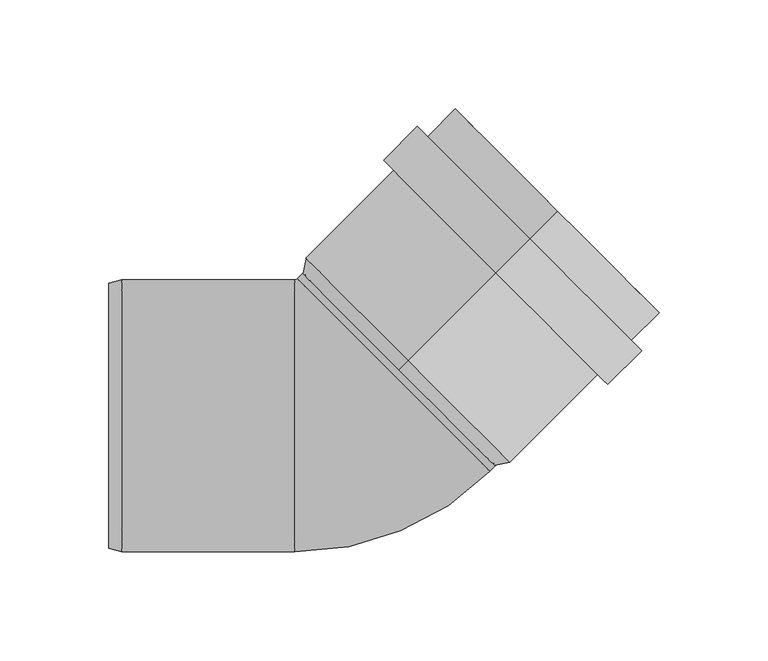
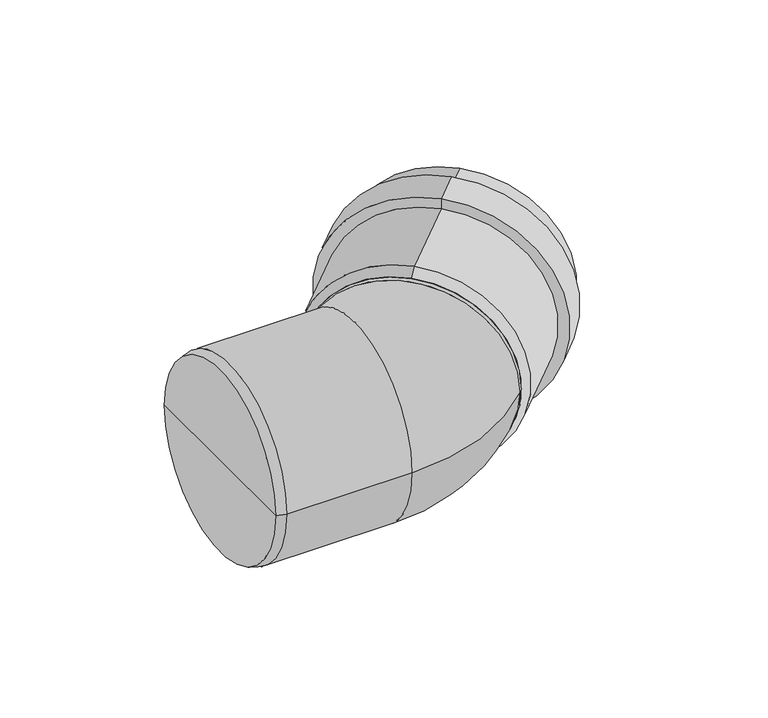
"""IFC4 building model written with IfcOpenShell, lengths in millimetres: pipe fitting geometry, OSMA_KG2000_PPKGB : Koleno 45°."""

from ifc_helpers import new_model, si_unit, point, frame, origin, place, context, project, spatial, polyline, circle_curve, ellipse_curve, trimmed, source, transform, mapped, element, save
from ifc_brep_helpers import plane_surface, cylinder_surface, revolved_surface, advanced_brep


def pipe_fitting_dc05e35d(model_context):
    return source(origin(), model_context, "Body", "AdvancedBrep", [
        advanced_brep(
        [(25.4558441, 25.4558441, 62.5), (25.4558441, 25.4558441, -62.5), (94.0452019, 94.0452019, -62.5), (94.0452019, 94.0452019, 62.5), (65.7609307, 65.7609307, 66.4), (65.7609307, 65.7609307, -66.4), (25.4558441, 25.4558441, -66.4), (25.4558441, 25.4558441, 66.4), (65.7609307, 65.7609307, 73.0), (65.7609307, 65.7609307, -73.0), (81.3172798, 81.3172798, 73.0), (81.3172798, 81.3172798, -73.0), (81.3172798, 81.3172798, 66.4), (81.3172798, 81.3172798, -66.4), (94.0452019, 94.0452019, 66.4), (94.0452019, 94.0452019, -66.4), (21.2132034, 21.2132034, 58.6), (21.2132034, 21.2132034, -58.6), (21.2132034, 21.2132034, 62.5), (21.2132034, 21.2132034, -62.5)],
        [
            (0, 1, circle_curve(frame((25.4558441, 25.4558441, 0.0), z_axis=(-0.7071067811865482, -0.7071067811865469, 0.0), x_axis=(0.0, 0.0, -1.0)), 62.5)),
            (1, 2),
            (2, 3, circle_curve(frame((94.0452019, 94.0452019, 0.0), z_axis=(0.7071067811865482, 0.7071067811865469, 0.0), x_axis=(0.0, 0.0, -1.0)), 62.5)),
            (3, 0),
            (1, 0, circle_curve(frame((25.4558441, 25.4558441, 0.0), z_axis=(-0.7071067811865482, -0.7071067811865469, 0.0), x_axis=(0.0, 0.0, -1.0)), 62.5)),
            (3, 2, circle_curve(frame((94.0452019, 94.0452019, 0.0), z_axis=(0.7071067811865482, 0.7071067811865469, 0.0), x_axis=(0.0, 0.0, -1.0)), 62.5)),
            (4, 5, circle_curve(frame((65.7609307, 65.7609307, 0.0), z_axis=(-0.7071067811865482, -0.7071067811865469, 0.0), x_axis=(0.0, 0.0, -1.0)), 66.4)),
            (5, 6),
            (6, 7, circle_curve(frame((25.4558441, 25.4558441, 0.0), z_axis=(0.7071067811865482, 0.7071067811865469, 0.0), x_axis=(0.0, 0.0, -1.0)), 66.4)),
            (7, 4),
            (5, 4, circle_curve(frame((65.7609307, 65.7609307, 0.0), z_axis=(-0.7071067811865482, -0.7071067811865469, 0.0), x_axis=(0.0, 0.0, -1.0)), 66.4)),
            (7, 6, circle_curve(frame((25.4558441, 25.4558441, 0.0), z_axis=(0.7071067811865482, 0.7071067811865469, 0.0), x_axis=(0.0, 0.0, -1.0)), 66.4)),
            (8, 9, circle_curve(frame((65.7609307, 65.7609307, 0.0), z_axis=(-0.7071067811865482, -0.7071067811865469, 0.0), x_axis=(0.0, 0.0, -1.0)), 73.0)),
            (9, 5),
            (4, 8),
            (9, 8, circle_curve(frame((65.7609307, 65.7609307, 0.0), z_axis=(-0.7071067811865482, -0.7071067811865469, 0.0), x_axis=(0.0, 0.0, -1.0)), 73.0)),
            (10, 11, circle_curve(frame((81.3172798, 81.3172798, 0.0), z_axis=(-0.7071067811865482, -0.7071067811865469, 0.0), x_axis=(0.0, 0.0, -1.0)), 73.0)),
            (11, 9),
            (8, 10),
            (11, 10, circle_curve(frame((81.3172798, 81.3172798, 0.0), z_axis=(-0.7071067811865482, -0.7071067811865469, 0.0), x_axis=(0.0, 0.0, -1.0)), 73.0)),
            (12, 13, circle_curve(frame((81.3172798, 81.3172798, 0.0), z_axis=(-0.7071067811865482, -0.7071067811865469, 0.0), x_axis=(0.0, 0.0, -1.0)), 66.4)),
            (13, 11),
            (10, 12),
            (13, 12, circle_curve(frame((81.3172798, 81.3172798, 0.0), z_axis=(-0.7071067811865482, -0.7071067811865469, 0.0), x_axis=(0.0, 0.0, -1.0)), 66.4)),
            (14, 15, circle_curve(frame((94.0452019, 94.0452019, 0.0), z_axis=(-0.7071067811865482, -0.7071067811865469, 0.0), x_axis=(0.0, 0.0, -1.0)), 66.4)),
            (15, 13),
            (12, 14),
            (15, 14, circle_curve(frame((94.0452019, 94.0452019, 0.0), z_axis=(-0.7071067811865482, -0.7071067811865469, 0.0), x_axis=(0.0, 0.0, -1.0)), 66.4)),
            (2, 15),
            (14, 3),
            (16, 17, circle_curve(frame((21.2132034, 21.2132034, 0.0), z_axis=(-0.7071067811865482, -0.7071067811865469, 0.0), x_axis=(0.0, 0.0, -1.0)), 58.6)),
            (17, 1),
            (0, 16),
            (17, 16, circle_curve(frame((21.2132034, 21.2132034, 0.0), z_axis=(-0.7071067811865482, -0.7071067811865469, 0.0), x_axis=(0.0, 0.0, -1.0)), 58.6)),
            (18, 19, circle_curve(frame((21.2132034, 21.2132034, 0.0), z_axis=(-0.7071067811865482, -0.7071067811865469, 0.0), x_axis=(0.0, 0.0, -1.0)), 62.5)),
            (19, 17),
            (16, 18),
            (19, 18, circle_curve(frame((21.2132034, 21.2132034, 0.0), z_axis=(-0.7071067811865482, -0.7071067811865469, 0.0), x_axis=(0.0, 0.0, -1.0)), 62.5)),
            (6, 19),
            (18, 7),
        ],
        [
            revolved_surface(polyline([(94.04520189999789, 94.04520190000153, -62.5), (25.45584409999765, 25.455844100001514, -62.5)]), (1981.6485249, 1981.6485249, 0.0), (0.7071067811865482, 0.7071067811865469, 0.0)),
            cylinder_surface(frame((1981.6485249, 1981.6485249, 0.0), z_axis=(0.7071067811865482, 0.7071067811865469, 0.0), x_axis=(0.0, 0.0, -1.0)), 66.4),
            plane_surface(frame((65.7609307, 65.7609307, 0.0), z_axis=(-0.7071067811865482, -0.7071067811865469, 0.0), x_axis=(0.0, 0.0, -1.0))),
            cylinder_surface(frame((1981.6485249, 1981.6485249, 0.0), z_axis=(0.7071067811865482, 0.7071067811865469, 0.0), x_axis=(0.0, 0.0, -1.0)), 73.0),
            plane_surface(frame((81.3172798, 81.3172798, 0.0), z_axis=(0.7071067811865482, 0.7071067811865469, 0.0), x_axis=(0.0, 0.0, -1.0))),
            plane_surface(frame((94.0452019, 94.0452019, 0.0), z_axis=(0.7071067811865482, 0.7071067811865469, 0.0), x_axis=(0.0, 0.0, -1.0))),
            revolved_surface(polyline([(25.4558441, 25.4558441, -62.5), (21.2132034, 21.2132034, -58.6)]), (1981.6485249, 1981.6485249, 0.0), (0.7071067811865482, 0.7071067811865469, 0.0)),
            plane_surface(frame((21.2132034, 21.2132034, 0.0), z_axis=(-0.7071067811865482, -0.7071067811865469, 0.0), x_axis=(0.0, 0.0, -1.0))),
            revolved_surface(polyline([(21.2132034, 21.2132034, -62.5), (25.4558441, 25.4558441, -66.4)]), (1981.6485249, 1981.6485249, 0.0), (0.7071067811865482, 0.7071067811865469, 0.0)),
        ],
        [
            (0, [[1, 2, 3, 4]]),
            (0, [[5, -4, 6, -2]]),
            (1, [[7, 8, 9, 10]]),
            (1, [[11, -10, 12, -8]]),
            (2, [[13, 14, -7, 15]]),
            (2, [[16, -15, -11, -14]]),
            (3, [[17, 18, -13, 19]]),
            (3, [[20, -19, -16, -18]]),
            (4, [[21, 22, -17, 23]]),
            (4, [[24, -23, -20, -22]]),
            (1, [[25, 26, -21, 27]]),
            (1, [[28, -27, -24, -26]]),
            (5, [[-3, 29, -25, 30]]),
            (5, [[-6, -30, -28, -29]]),
            (6, [[31, 32, -1, 33]]),
            (6, [[34, -33, -5, -32]]),
            (7, [[35, 36, -31, 37]]),
            (7, [[38, -37, -34, -36]]),
            (8, [[-9, 39, -35, 40]]),
            (8, [[-12, -40, -38, -39]]),
        ],
    ),
        advanced_brep(
        [(-25.4490078, 62.9393398, 0.0), (-26.509668, 62.5, 0.0), (-26.509668, -62.5, 0.0), (62.9393398, -25.4490078, 0.0), (18.745166, 18.745166, 62.5), (18.745166, 18.745166, -62.5), (-112.0, 0.0, 0.0), (-112.0, 60.8923048, 0.0), (-112.0, -60.8923048, 0.0), (-106.0, 62.5, 0.0), (-106.0, -62.5, 0.0), (69.6500179, -18.7383297, 0.0), (-18.7383297, 69.6500179, 0.0)],
        [
            (0, 1, circle_curve(frame((-26.509668, 64.0, 0.0), z_axis=(0.0, 0.0, -1.0), x_axis=(0.0, -1.0, 0.0)), 1.5)),
            (1, 2, circle_curve(frame((-26.509668, 0.0, 0.0), z_axis=(1.0, 0.0, 0.0), x_axis=(0.0, 1.0, 0.0)), 62.5)),
            (2, 3, circle_curve(frame((-26.509668, 64.0, 0.0), z_axis=(0.0, 0.0, 1.0), x_axis=(0.0, -1.0, 0.0)), 126.5)),
            (3, 4, circle_curve(frame((18.745166, 18.745166, 0.0), z_axis=(-0.7071067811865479, -0.7071067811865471, 0.0), x_axis=(-0.7071067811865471, 0.7071067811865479, 0.0)), 62.5)),
            (4, 0, circle_curve(frame((18.745166, 18.745166, 0.0), z_axis=(-0.7071067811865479, -0.7071067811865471, 0.0), x_axis=(-0.7071067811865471, 0.7071067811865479, 0.0)), 62.5)),
            (0, 5, circle_curve(frame((18.745166, 18.745166, 0.0), z_axis=(-0.7071067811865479, -0.7071067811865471, 0.0), x_axis=(-0.7071067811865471, 0.7071067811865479, 0.0)), 62.5)),
            (5, 3, circle_curve(frame((18.745166, 18.745166, 0.0), z_axis=(-0.7071067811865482, -0.7071067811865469, 0.0), x_axis=(-0.7071067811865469, 0.7071067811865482, 0.0)), 62.5)),
            (2, 1, circle_curve(frame((-26.509668, 0.0, 0.0), z_axis=(1.0, 0.0, 0.0), x_axis=(0.0, 1.0, 0.0)), 62.5)),
            (6, 7),
            (7, 8, circle_curve(frame((-112.0, 0.0, 0.0), z_axis=(-1.0, 0.0, 0.0), x_axis=(0.0, 1.0, 0.0)), 60.8923048)),
            (8, 6),
            (8, 7, circle_curve(frame((-112.0, 0.0, 0.0), z_axis=(-1.0, 0.0, 0.0), x_axis=(0.0, 1.0, 0.0)), 60.8923048)),
            (7, 9),
            (9, 10, circle_curve(frame((-106.0, 0.0, 0.0), z_axis=(-1.0, 0.0, 0.0), x_axis=(0.0, 1.0, 0.0)), 62.5)),
            (10, 8),
            (10, 9, circle_curve(frame((-106.0, 0.0, 0.0), z_axis=(-1.0, 0.0, 0.0), x_axis=(0.0, 1.0, 0.0)), 62.5)),
            (9, 1),
            (2, 10),
            (11, 12, circle_curve(frame((25.4558441, 25.4558441, 0.0), z_axis=(0.7071067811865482, 0.7071067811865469, 0.0), x_axis=(-0.7071067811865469, 0.7071067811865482, 0.0)), 62.5)),
            (12, 11, circle_curve(frame((25.4558441, 25.4558441, 0.0), z_axis=(0.7071067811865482, 0.7071067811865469, 0.0), x_axis=(-0.7071067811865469, 0.7071067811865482, 0.0)), 62.5)),
            (12, 0),
            (3, 11),
        ],
        [
            revolved_surface(trimmed(ellipse_curve(frame((-26.509668, 0.0, 0.0), z_axis=(-1.0, 0.0, 0.0), x_axis=(0.0, 1.0, 0.0)), 62.5, 62.5), [point((-26.509668, -62.5, 0.0))], [point((-26.509668, 62.5, 0.0))], True, "CARTESIAN"), (-26.509668, 64.0, 0.0), (0.0, 0.0, 1.0)),
            revolved_surface(trimmed(ellipse_curve(frame((-26.509668, 0.0, 0.0), z_axis=(-1.0, 0.0, 0.0), x_axis=(0.0, 1.0, 0.0)), 62.5, 62.5), [point((-26.509668, 62.5, 0.0))], [point((-26.509668, -62.5, 0.0))], True, "CARTESIAN"), (-26.509668, 64.0, 0.0), (0.0, 0.0, 1.0)),
            plane_surface(frame((-112.0, 0.0, 0.0), z_axis=(-1.0, 0.0, 0.0), x_axis=(0.0, 1.0, 0.0))),
            revolved_surface(polyline([(-106.0, 62.5, 0.0), (-112.0, 60.8923048, 0.0)]), (331.0587718, 0.0, 0.0), (-1.0, 0.0, 0.0)),
            cylinder_surface(frame((331.0587718, 0.0, 0.0), z_axis=(-1.0, 0.0, 0.0), x_axis=(0.0, 1.0, 0.0)), 62.5),
            plane_surface(frame((25.4558441, 25.4558441, 0.0), z_axis=(0.7071067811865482, 0.7071067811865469, 0.0), x_axis=(0.0, 0.0, 1.0))),
            cylinder_surface(frame((18.745166, 18.745166, 0.0), z_axis=(-0.7071067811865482, -0.7071067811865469, 0.0), x_axis=(-0.7071067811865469, 0.7071067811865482, 0.0)), 62.5),
        ],
        [
            (0, [[1, 2, 3, 4, 5]]),
            (1, [[-1, 6, 7, -3, 8]]),
            (2, [[9, 10, 11]]),
            (2, [[-9, -11, 12]]),
            (3, [[-10, 13, 14, 15]]),
            (3, [[-12, -15, 16, -13]]),
            (4, [[-14, 17, -8, 18]]),
            (4, [[-16, -18, -2, -17]]),
            (5, [[19, 20]]),
            (6, [[-20, 21, -5, -4, 22]]),
            (6, [[-19, -22, -7, -6, -21]]),
        ],
    ),
    ])


if __name__ == "__main__":
    model = new_model("IFC4")
    model_context = context("Model", 3, world=origin())
    ifc_project = project(units=[si_unit("LENGTHUNIT", "METRE", prefix="MILLI")], contexts=[model_context])
    site = spatial("IfcSite", under=ifc_project)
    building = spatial("IfcBuilding", under=site)
    placement = place(None, origin())
    pipe_fitting_shape = pipe_fitting_dc05e35d(model_context)
    element("IfcPipeFitting", 1, ObjectType="OSMA_KG2000_PPKGB : Koleno 45°", at=placement, inside=building, context=model_context, shape_type="MappedRepresentation", body=[
        mapped(pipe_fitting_shape, transform((0.0, 0.0, 0.0), x_axis=(1.0, 0.0, 0.0), y_axis=(0.0, 1.0, 0.0), z_axis=(0.0, 0.0, 1.0))),
    ])
    save(model, "model.ifc")
